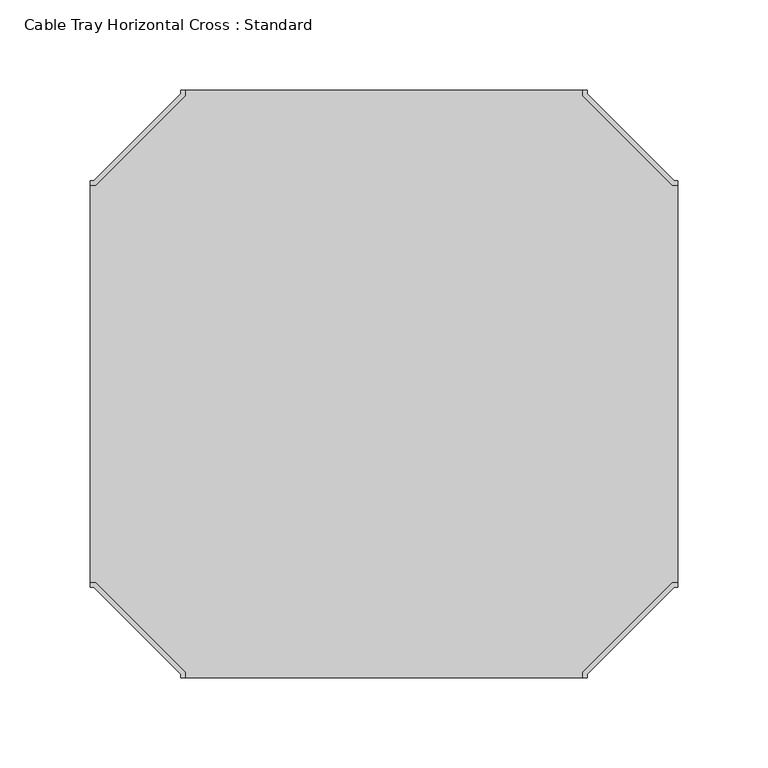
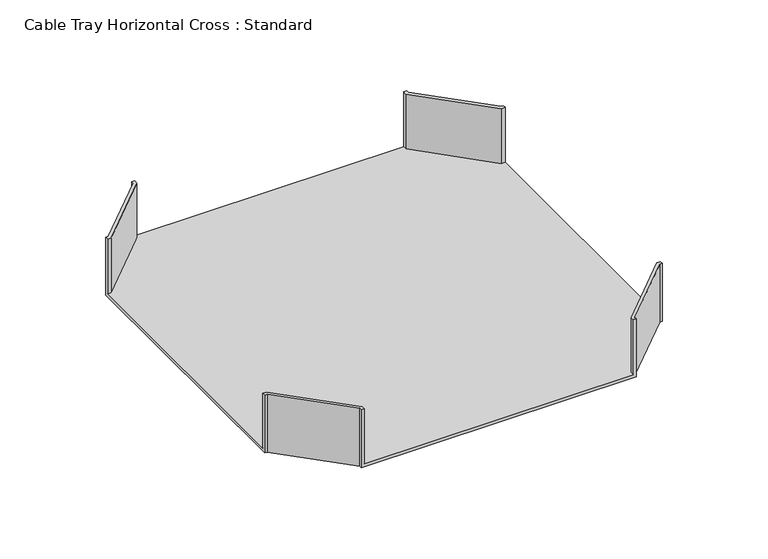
"""IFC4 building model written with IfcOpenShell, lengths in millimetres: cable carrier fitting geometry, Cable Tray Horizontal Cross : Standard."""

from ifc_helpers import new_model, si_unit, origin, place, context, project, spatial, faceted_brep, source, transform, mapped, element, save


def cable_tray_horizontal_cross_standard_c47390ba(model_context):
    return source(origin(), model_context, "Body", "Brep", [
        faceted_brep([(-109.96, -162.5, -22.46), (109.96, -162.5, -22.46), (109.96, -159.4478976, -22.46), (159.4478976, -109.96, -22.46), (162.5, -109.96, -22.46), (162.5, 109.96, -22.46), (159.4478976, 109.96, -22.46), (109.96, 159.4478976, -22.46), (109.96, 162.5, -22.46), (-109.96, 162.5, -22.46), (-109.96, 159.4478976, -22.46), (-159.4478976, 109.96, -22.46), (-162.5, 109.96, -22.46), (-162.5, -109.96, -22.46), (-159.4478976, -109.96, -22.46), (-109.96, -159.4478976, -22.46), (-112.5, -160.5, -25.0), (-160.5, -112.5, -25.0), (-162.5, -112.5, -25.0), (-162.5, 112.5, -25.0), (-160.5, 112.5, -25.0), (-112.5, 160.5, -25.0), (-112.5, 162.5, -25.0), (112.5, 162.5, -25.0), (112.5, 160.5, -25.0), (160.5, 112.5, -25.0), (162.5, 112.5, -25.0), (162.5, -112.5, -25.0), (160.5, -112.5, -25.0), (112.5, -160.5, -25.0), (112.5, -162.5, -25.0), (-112.5, -162.5, -25.0), (-112.5, -162.5, 25.0), (-112.5, -160.5, 25.0), (112.5, -162.5, 25.0), (109.96, -162.5, 25.0), (-109.96, -162.5, 25.0), (112.5, -160.5, 25.0), (160.5, -112.5, 25.0), (162.5, -112.5, 25.0), (162.5, 112.5, 25.0), (162.5, 109.96, 25.0), (162.5, -109.96, 25.0), (-162.5, -112.5, 25.0), (-162.5, -109.96, 25.0), (-162.5, 109.96, 25.0), (-162.5, 112.5, 25.0), (-160.5, -112.5, 25.0), (-109.96, -159.4478976, 25.0), (-159.4478976, -109.96, 25.0), (109.96, -159.4478976, 25.0), (159.4478976, -109.96, 25.0), (-112.5, 160.5, 25.0), (-160.5, 112.5, 25.0), (-159.4478976, 109.96, 25.0), (-109.96, 159.4478976, 25.0), (-109.96, 162.5, 25.0), (-112.5, 162.5, 25.0), (160.5, 112.5, 25.0), (112.5, 160.5, 25.0), (112.5, 162.5, 25.0), (109.96, 162.5, 25.0), (109.96, 159.4478976, 25.0), (159.4478976, 109.96, 25.0)], [[[0, 1, 2, 3, 4, 5, 6, 7, 8, 9, 10, 11, 12, 13, 14, 15]], [[16, 17, 18, 19, 20, 21, 22, 23, 24, 25, 26, 27, 28, 29, 30, 31]], [[16, 31, 32, 33]], [[32, 31, 30, 34, 35, 1, 0, 36]], [[34, 30, 29, 37]], [[37, 29, 28, 38]], [[38, 28, 27, 39]], [[39, 27, 26, 40, 41, 5, 4, 42]], [[19, 18, 43, 44, 13, 12, 45, 46]], [[43, 18, 17, 47]], [[47, 17, 16, 33]], [[48, 49, 44, 43, 47, 33, 32, 36]], [[50, 35, 34, 37, 38, 39, 42, 51]], [[52, 53, 46, 45, 54, 55, 56, 57]], [[58, 59, 60, 61, 62, 63, 41, 40]], [[49, 48, 15, 14]], [[44, 49, 14, 13]], [[48, 36, 0, 15]], [[51, 42, 4, 3]], [[50, 51, 3, 2]], [[35, 50, 2, 1]], [[40, 26, 25, 58]], [[58, 25, 24, 59]], [[59, 24, 23, 60]], [[60, 23, 22, 57, 56, 9, 8, 61]], [[57, 22, 21, 52]], [[52, 21, 20, 53]], [[53, 20, 19, 46]], [[54, 45, 12, 11]], [[55, 54, 11, 10]], [[56, 55, 10, 9]], [[62, 61, 8, 7]], [[63, 62, 7, 6]], [[41, 63, 6, 5]]]),
    ])


if __name__ == "__main__":
    model = new_model("IFC4")
    model_context = context("Model", 3, world=origin())
    ifc_project = project(units=[si_unit("LENGTHUNIT", "METRE", prefix="MILLI")], contexts=[model_context])
    site = spatial("IfcSite", under=ifc_project)
    building = spatial("IfcBuilding", under=site)
    placement = place(None, origin())
    cable_tray_horizontal_cross_standard_shape = cable_tray_horizontal_cross_standard_c47390ba(model_context)
    element("IfcCableCarrierFitting", 1, ObjectType="Cable Tray Horizontal Cross : Standard", at=placement, inside=building, context=model_context, shape_type="MappedRepresentation", body=[
        mapped(cable_tray_horizontal_cross_standard_shape, transform((0.0, 0.0, 0.0), x_axis=(1.0, 0.0, 0.0), y_axis=(0.0, 1.0, 0.0), z_axis=(0.0, 0.0, 1.0))),
    ])
    save(model, "model.ifc")
